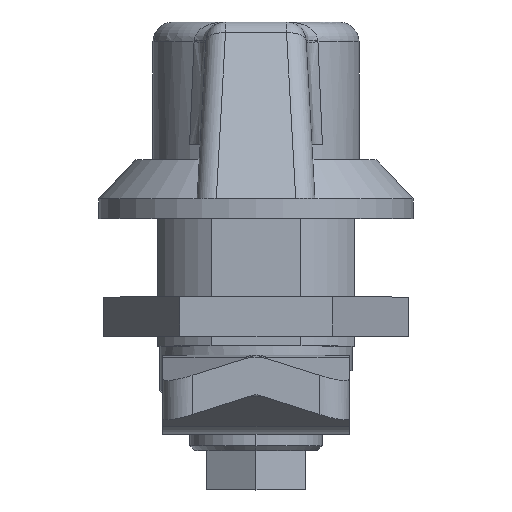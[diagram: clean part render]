
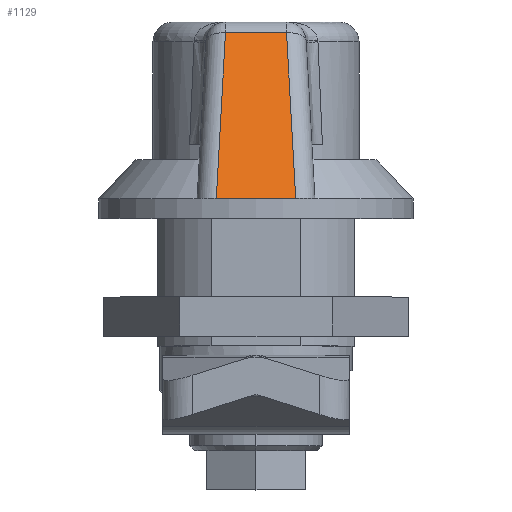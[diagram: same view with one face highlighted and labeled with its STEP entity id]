
A CAD part, top view. The second image highlights one B-rep face of the part: STEP entity #1129.
In plain terms, the highlighted planar face has unit normal (0, 0.446, 0.895) as drawn and (-0.446, 0, 0.895) by its records, which use the part's own axes.
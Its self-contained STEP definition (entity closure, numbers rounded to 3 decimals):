
#7 = EDGE_CURVE ( 'NONE', #5648, #2573, #2592, .T. ) ;
#240 = EDGE_LOOP ( 'NONE', ( #5195, #2890, #5464, #2864 ) ) ;
#285 = DIRECTION ( 'NONE',  ( 0.894, -0.05, 0.446 ) ) ;
#766 = CARTESIAN_POINT ( 'NONE',  ( -41.5, 6., 16.026 ) ) ;
#926 = CARTESIAN_POINT ( 'NONE',  ( -23.5, 4.046, 25. ) ) ;
#1071 = CARTESIAN_POINT ( 'NONE',  ( -40.392, 3.108, 16.578 ) ) ;
#1113 = CARTESIAN_POINT ( 'NONE',  ( -40.392, -3.108, 16.578 ) ) ;
#1114 = VECTOR ( 'NONE', #1655, 1000. ) ;
#1129 = ADVANCED_FACE ( 'NONE', ( #2615 ), #1592, .F. ) ;
#1162 = LINE ( 'NONE', #3912, #1114 ) ;
#1191 = CARTESIAN_POINT ( 'NONE',  ( -41.369, 3.054, 16.091 ) ) ;
#1434 = CARTESIAN_POINT ( 'NONE',  ( -23.5, 6., 25. ) ) ;
#1592 = PLANE ( 'NONE',  #1693 ) ;
#1654 = DIRECTION ( 'NONE',  ( -0.895, 0., -0.446 ) ) ;
#1655 = DIRECTION ( 'NONE',  ( 0., -1., 0. ) ) ;
#1693 = AXIS2_PLACEMENT_3D ( 'NONE', #766, #3095, #1654 ) ;
#2152 = EDGE_CURVE ( 'NONE', #2994, #2573, #2423, .T. ) ;
#2222 = CARTESIAN_POINT ( 'NONE',  ( -23.5, -4.046, 25. ) ) ;
#2271 = VECTOR ( 'NONE', #285, 1000. ) ;
#2423 = LINE ( 'NONE', #1434, #4335 ) ;
#2573 = VERTEX_POINT ( 'NONE', #2222 ) ;
#2592 = LINE ( 'NONE', #3523, #2271 ) ;
#2615 = FACE_OUTER_BOUND ( 'NONE', #240, .T. ) ;
#2723 = EDGE_CURVE ( 'NONE', #4970, #5648, #1162, .T. ) ;
#2864 = ORIENTED_EDGE ( 'NONE', *, *, #7, .T. ) ;
#2890 = ORIENTED_EDGE ( 'NONE', *, *, #5366, .T. ) ;
#2994 = VERTEX_POINT ( 'NONE', #926 ) ;
#3095 = DIRECTION ( 'NONE',  ( 0.446, 0., -0.895 ) ) ;
#3310 = DIRECTION ( 'NONE',  ( 0., -1., 0. ) ) ;
#3523 = CARTESIAN_POINT ( 'NONE',  ( -41.902, -3.024, 15.825 ) ) ;
#3912 = CARTESIAN_POINT ( 'NONE',  ( -40.392, 6., 16.578 ) ) ;
#4335 = VECTOR ( 'NONE', #3310, 1000. ) ;
#4960 = LINE ( 'NONE', #1191, #5592 ) ;
#4970 = VERTEX_POINT ( 'NONE', #1071 ) ;
#5195 = ORIENTED_EDGE ( 'NONE', *, *, #2152, .F. ) ;
#5321 = DIRECTION ( 'NONE',  ( -0.894, -0.05, -0.446 ) ) ;
#5366 = EDGE_CURVE ( 'NONE', #2994, #4970, #4960, .T. ) ;
#5464 = ORIENTED_EDGE ( 'NONE', *, *, #2723, .T. ) ;
#5592 = VECTOR ( 'NONE', #5321, 1000. ) ;
#5648 = VERTEX_POINT ( 'NONE', #1113 ) ;
